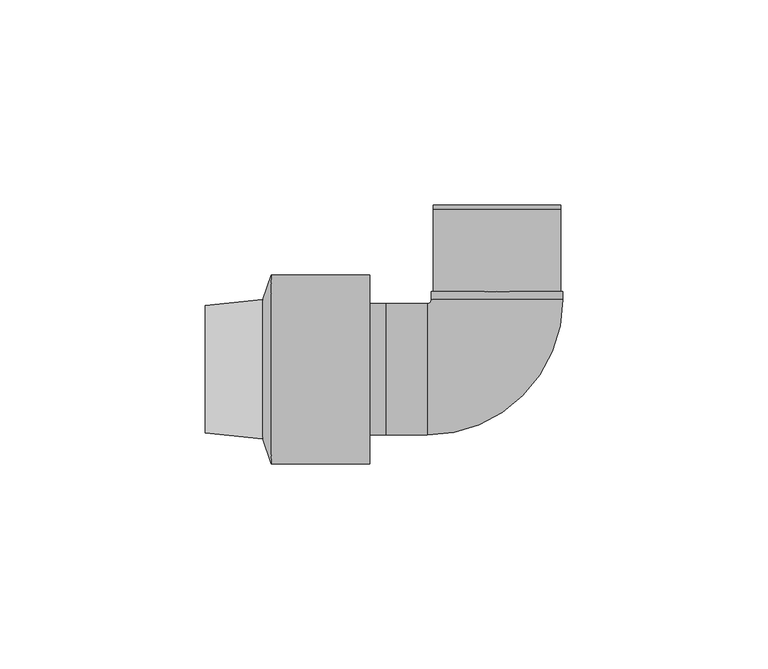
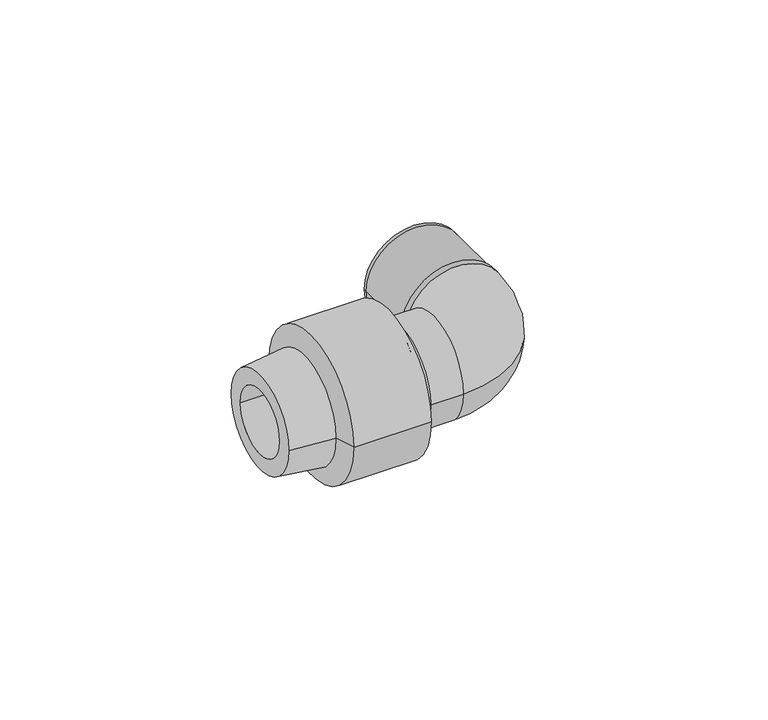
"""IFC4 building model written with IfcOpenShell, lengths in millimetres: pipe fitting geometry, Pipelife - PE - Kolano 90 proste z gwintem wewnętrznym : 20 x 1/2''."""

from ifc_helpers import new_model, si_unit, point, frame, origin, place, context, project, spatial, polyline, circle_curve, ellipse_curve, trimmed, source, transform, mapped, element, save
from ifc_brep_helpers import plane_surface, cylinder_surface, revolved_surface, advanced_brep


def pipe_fitting_b77e945e(model_context):
    return source(origin(), model_context, "Body", "AdvancedBrep", [
        advanced_brep(
        [(-17.0, -10.5, 0.0), (-31.0, -10.5, 0.0), (-31.0, 10.5, 0.0), (-17.0, 10.5, 0.0), (-27.0, -16.0, 0.0), (-17.0, -16.0, 0.0), (-17.0, 16.0, 0.0), (-27.0, 16.0, 0.0), (-31.0, -16.0, 0.0), (-31.0, 16.0, 0.0), (-15.5, 40.0, 0.0), (15.5, 40.0, 0.0), (9.5, 40.0, 0.0), (-9.5, 40.0, 0.0), (-15.5, 39.0, 0.0), (15.5, 39.0, 0.0), (-15.5, 19.0, 0.0), (15.5, 19.0, 0.0), (-9.5, 24.0, 0.0), (9.5, 24.0, 0.0), (-16.0, 17.0, 0.0), (16.0, 17.0, 0.0), (-16.0, 19.0, 0.0), (16.0, 19.0, 0.0)],
        [
            (0, 1),
            (1, 2, circle_curve(frame((-31.0, 0.0, 0.0), z_axis=(-1.0, 0.0, 0.0), x_axis=(0.0, 1.0, 0.0)), 10.5)),
            (2, 3),
            (3, 0, circle_curve(frame((-17.0, 0.0, 0.0), z_axis=(1.0, 0.0, 0.0), x_axis=(0.0, 1.0, 0.0)), 10.5)),
            (0, 3, circle_curve(frame((-17.0, 0.0, 0.0), z_axis=(1.0, 0.0, 0.0), x_axis=(0.0, 1.0, 0.0)), 10.5)),
            (2, 1, circle_curve(frame((-31.0, 0.0, 0.0), z_axis=(-1.0, 0.0, 0.0), x_axis=(0.0, 1.0, 0.0)), 10.5)),
            (4, 5),
            (5, 6, circle_curve(frame((-17.0, 0.0, 0.0), z_axis=(-1.0, 0.0, 0.0), x_axis=(0.0, 1.0, 0.0)), 16.0)),
            (6, 7),
            (7, 4, circle_curve(frame((-27.0, 0.0, 0.0), z_axis=(1.0, 0.0, 0.0), x_axis=(0.0, 1.0, 0.0)), 16.0)),
            (4, 7, circle_curve(frame((-27.0, 0.0, 0.0), z_axis=(1.0, 0.0, 0.0), x_axis=(0.0, 1.0, 0.0)), 16.0)),
            (6, 5, circle_curve(frame((-17.0, 0.0, 0.0), z_axis=(-1.0, 0.0, 0.0), x_axis=(0.0, 1.0, 0.0)), 16.0)),
            (8, 9, circle_curve(frame((-31.0, 0.0, 0.0), z_axis=(-1.0, 0.0, 0.0), x_axis=(0.0, 1.0, 0.0)), 16.0)),
            (9, 8, circle_curve(frame((-31.0, 0.0, 0.0), z_axis=(-1.0, 0.0, 0.0), x_axis=(0.0, 1.0, 0.0)), 16.0)),
            (8, 4),
            (7, 9),
            (10, 11, circle_curve(frame((0.0, 40.0, 0.0), z_axis=(0.0, 1.0, 0.0), x_axis=(1.0, 0.0, 0.0)), 15.5)),
            (11, 10, circle_curve(frame((0.0, 40.0, 0.0), z_axis=(0.0, 1.0, 0.0), x_axis=(1.0, 0.0, 0.0)), 15.5)),
            (12, 13, circle_curve(frame((0.0, 40.0, 0.0), z_axis=(0.0, -1.0, 0.0), x_axis=(1.0, 0.0, 0.0)), 9.5)),
            (13, 12, circle_curve(frame((0.0, 40.0, 0.0), z_axis=(0.0, -1.0, 0.0), x_axis=(1.0, 0.0, 0.0)), 9.5)),
            (10, 14),
            (14, 15, circle_curve(frame((0.0, 39.0, 0.0), z_axis=(0.0, 1.0, 0.0), x_axis=(1.0, 0.0, 0.0)), 15.5)),
            (15, 11),
            (15, 14, circle_curve(frame((0.0, 39.0, 0.0), z_axis=(0.0, 1.0, 0.0), x_axis=(1.0, 0.0, 0.0)), 15.5)),
            (14, 16),
            (16, 17, circle_curve(frame((0.0, 19.0, 0.0), z_axis=(0.0, 1.0, 0.0), x_axis=(1.0, 0.0, 0.0)), 15.5)),
            (17, 15),
            (17, 16, circle_curve(frame((0.0, 19.0, 0.0), z_axis=(0.0, 1.0, 0.0), x_axis=(1.0, 0.0, 0.0)), 15.5)),
            (18, 19, circle_curve(frame((0.0, 24.0, 0.0), z_axis=(0.0, 1.0, 0.0), x_axis=(1.0, 0.0, 0.0)), 9.5)),
            (19, 18, circle_curve(frame((0.0, 24.0, 0.0), z_axis=(0.0, 1.0, 0.0), x_axis=(1.0, 0.0, 0.0)), 9.5)),
            (18, 13),
            (12, 19),
            (20, 6, circle_curve(frame((-17.0, 17.0, 0.0), z_axis=(0.0, 0.0, -1.0), x_axis=(0.0, -1.0000000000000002, 0.0)), 1.0)),
            (5, 21, circle_curve(frame((-17.0, 17.0, 0.0), z_axis=(0.0, 0.0, 1.0), x_axis=(0.0, -1.0000000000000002, 0.0)), 33.0)),
            (21, 20, circle_curve(frame((0.0, 17.0, 0.0), z_axis=(0.0, -1.0000000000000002, 0.0), x_axis=(-1.0000000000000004, 0.0, 0.0)), 16.0)),
            (20, 21, circle_curve(frame((0.0, 17.0, 0.0), z_axis=(0.0, -1.0000000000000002, 0.0), x_axis=(-1.0000000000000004, 0.0, 0.0)), 16.0)),
            (22, 23, circle_curve(frame((0.0, 19.0, 0.0), z_axis=(0.0, 1.0, 0.0), x_axis=(1.0, 0.0, 0.0)), 16.0)),
            (23, 22, circle_curve(frame((0.0, 19.0, 0.0), z_axis=(0.0, 1.0, 0.0), x_axis=(1.0, 0.0, 0.0)), 16.0)),
            (22, 20),
            (21, 23),
        ],
        [
            revolved_surface(polyline([(-31.0, 10.5, 0.0), (-17.0, 10.5, 0.0)]), (-71.0, 0.0, 0.0), (-1.0, 0.0, 0.0)),
            cylinder_surface(frame((-27.0, 0.0, 0.0), z_axis=(-1.0, 0.0, 0.0), x_axis=(0.0, 1.0, 0.0)), 16.0),
            plane_surface(frame((-31.0, 0.0, 0.0), z_axis=(-1.0, 0.0, 0.0), x_axis=(0.0, 0.0, 1.0))),
            cylinder_surface(frame((-31.0, 0.0, 0.0), z_axis=(-1.0, 0.0, 0.0), x_axis=(0.0, 1.0, 0.0)), 16.0),
            plane_surface(frame((0.0, 40.0, 0.0), z_axis=(0.0, 1.0, 0.0), x_axis=(0.0, 0.0, 1.0))),
            cylinder_surface(frame((0.0, 40.0, 0.0), z_axis=(0.0, 1.0, 0.0), x_axis=(1.0, 0.0, 0.0)), 15.5),
            cylinder_surface(frame((0.0, 39.0, 0.0), z_axis=(0.0, 1.0, 0.0), x_axis=(1.0, 0.0, 0.0)), 15.5),
            plane_surface(frame((0.0, 24.0, 0.0), z_axis=(0.0, 1.0, 0.0), x_axis=(0.0, 0.0, 1.0))),
            revolved_surface(polyline([(9.5, 40.0, 0.0), (9.5, 24.0, 0.0)]), (0.0, 40.0, 0.0), (0.0, 1.0, 0.0)),
            plane_surface(frame((-17.0, 0.0, 0.0), z_axis=(-1.0, 0.0, 0.0), x_axis=(0.0, 0.0, 1.0))),
            revolved_surface(trimmed(ellipse_curve(frame((-17.0, 0.0, 0.0), z_axis=(-1.0000000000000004, 0.0, 0.0), x_axis=(0.0, 1.0000000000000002, 0.0)), 16.0, 16.0), [point((-17.0, -16.0, 0.0))], [point((-17.0, 16.0, 0.0))], True, "CARTESIAN"), (-17.0, 17.0, 0.0), (0.0, 0.0, 1.0000000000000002)),
            revolved_surface(trimmed(ellipse_curve(frame((-17.0, 0.0, 0.0), z_axis=(-1.0000000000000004, 0.0, 0.0), x_axis=(0.0, 1.0000000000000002, 0.0)), 16.0, 16.0), [point((-17.0, 16.0, 0.0))], [point((-17.0, -16.0, 0.0))], True, "CARTESIAN"), (-17.0, 17.0, 0.0), (0.0, 0.0, 1.0000000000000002)),
            plane_surface(frame((0.0, 19.0, 0.0), z_axis=(0.0, 1.0, 0.0), x_axis=(0.0, 0.0, 1.0))),
            cylinder_surface(frame((0.0, 19.0, 0.0), z_axis=(0.0, 1.0, 0.0), x_axis=(1.0, 0.0, 0.0)), 16.0),
        ],
        [
            (0, [[1, 2, 3, 4]]),
            (0, [[-1, 5, -3, 6]]),
            (1, [[7, 8, 9, 10]]),
            (1, [[-7, 11, -9, 12]]),
            (2, [[13, 14], [-2, -6]]),
            (3, [[-13, 15, -10, 16]]),
            (3, [[-14, -16, -11, -15]]),
            (4, [[17, 18], [19, 20]]),
            (5, [[-17, 21, 22, 23]]),
            (5, [[-18, -23, 24, -21]]),
            (6, [[25, 26, 27, -22]]),
            (6, [[-25, -24, -27, 28]]),
            (7, [[29, 30]]),
            (8, [[-29, 31, -19, 32]]),
            (8, [[-30, -32, -20, -31]]),
            (9, [[-4, -5]]),
            (10, [[33, -8, 34, 35]]),
            (11, [[-33, 36, -34, -12]]),
            (12, [[37, 38], [-26, -28]]),
            (13, [[-37, 39, -35, 40]]),
            (13, [[-38, -40, -36, -39]]),
        ],
    ),
        advanced_brep(
        [(-31.0, -23.0, 0.0), (-31.0, 23.0, 0.0), (-31.0, -10.5, 0.0), (-31.0, 10.5, 0.0), (-55.0, 23.0, 0.0), (-55.0, -23.0, 0.0), (-71.0, -10.5, 0.0), (-71.0, 10.5, 0.0), (-57.0, -17.0, 0.0), (-57.0, 17.0, 0.0), (-71.0, 15.5, 0.0), (-71.0, -15.5, 0.0)],
        [
            (0, 1, circle_curve(frame((-31.0, 0.0, 0.0), z_axis=(1.0, 0.0, 0.0), x_axis=(0.0, 1.0, 0.0)), 23.0)),
            (1, 0, circle_curve(frame((-31.0, 0.0, 0.0), z_axis=(1.0, 0.0, 0.0), x_axis=(0.0, 1.0, 0.0)), 23.0)),
            (2, 3, circle_curve(frame((-31.0, 0.0, 0.0), z_axis=(-1.0, 0.0, 0.0), x_axis=(0.0, 1.0, 0.0)), 10.5)),
            (3, 2, circle_curve(frame((-31.0, 0.0, 0.0), z_axis=(-1.0, 0.0, 0.0), x_axis=(0.0, 1.0, 0.0)), 10.5)),
            (1, 4),
            (4, 5, circle_curve(frame((-55.0, 0.0, 0.0), z_axis=(1.0, 0.0, 0.0), x_axis=(0.0, 1.0, 0.0)), 23.0)),
            (5, 0),
            (5, 4, circle_curve(frame((-55.0, 0.0, 0.0), z_axis=(1.0, 0.0, 0.0), x_axis=(0.0, 1.0, 0.0)), 23.0)),
            (2, 6),
            (6, 7, circle_curve(frame((-71.0, 0.0, 0.0), z_axis=(-1.0, 0.0, 0.0), x_axis=(0.0, 1.0, 0.0)), 10.5)),
            (7, 3),
            (7, 6, circle_curve(frame((-71.0, 0.0, 0.0), z_axis=(-1.0, 0.0, 0.0), x_axis=(0.0, 1.0, 0.0)), 10.5)),
            (5, 8),
            (8, 9, circle_curve(frame((-57.0, 0.0, 0.0), z_axis=(1.0, 0.0, 0.0), x_axis=(0.0, 1.0, 0.0)), 17.0)),
            (9, 4),
            (9, 8, circle_curve(frame((-57.0, 0.0, 0.0), z_axis=(1.0, 0.0, 0.0), x_axis=(0.0, -1.0, 0.0)), 17.0)),
            (10, 11, circle_curve(frame((-71.0, 0.0, 0.0), z_axis=(-1.0, 0.0, 0.0), x_axis=(0.0, 1.0, 0.0)), 15.5)),
            (11, 10, circle_curve(frame((-71.0, 0.0, 0.0), z_axis=(-1.0, 0.0, 0.0), x_axis=(0.0, -1.0, 0.0)), 15.5)),
            (10, 9),
            (8, 11),
        ],
        [
            plane_surface(frame((-31.0, 0.0, 0.0), z_axis=(1.0, 0.0, 0.0), x_axis=(0.0, 0.0, 1.0))),
            cylinder_surface(frame((-55.0, 0.0, 0.0), z_axis=(-1.0, 0.0, 0.0), x_axis=(0.0, 1.0, 0.0)), 23.0),
            revolved_surface(polyline([(-71.0, 10.5, 0.0), (-31.0, 10.5, 0.0)]), (-71.0, 0.0, 0.0), (-1.0, 0.0, 0.0)),
            revolved_surface(polyline([(-57.0, -17.00000002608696, 0.0), (-55.0, -23.0, 0.0)]), (-62.6666667, 0.0, 0.0), (1.0, 0.0, 0.0)),
            plane_surface(frame((-71.0, 0.0, 0.0), z_axis=(-1.0, 0.0, 0.0), x_axis=(0.0, 0.0, -1.0))),
            revolved_surface(polyline([(-71.0, 15.500000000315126, 0.0), (-57.0, 17.0, 0.0)]), (-215.6666667, 0.0, 0.0), (1.0, 0.0, 0.0)),
            revolved_surface(polyline([(-71.0, -15.500000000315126, 0.0), (-57.0, -17.0, 0.0)]), (-215.6666667, 0.0, 0.0), (1.0, 0.0, 0.0)),
        ],
        [
            (0, [[1, 2], [3, 4]]),
            (1, [[-2, 5, 6, 7]]),
            (1, [[-1, -7, 8, -5]]),
            (2, [[9, 10, 11, -3]]),
            (2, [[-9, -4, -11, 12]]),
            (3, [[13, 14, 15, -8]]),
            (3, [[-13, -6, -15, 16]]),
            (4, [[17, 18], [-10, -12]]),
            (5, [[-17, 19, -14, 20]]),
            (6, [[-18, -20, -16, -19]]),
        ],
    ),
    ])


if __name__ == "__main__":
    model = new_model("IFC4")
    model_context = context("Model", 3, world=origin())
    ifc_project = project(units=[si_unit("LENGTHUNIT", "METRE", prefix="MILLI")], contexts=[model_context])
    site = spatial("IfcSite", under=ifc_project)
    building = spatial("IfcBuilding", under=site)
    placement = place(None, origin())
    pipe_fitting_shape = pipe_fitting_b77e945e(model_context)
    element("IfcPipeFitting", 1, ObjectType="Pipelife - PE - Kolano 90 proste z gwintem wewnętrznym : 20 x 1/2''", at=placement, inside=building, context=model_context, shape_type="MappedRepresentation", body=[
        mapped(pipe_fitting_shape, transform((0.0, 0.0, 0.0), x_axis=(1.0, 0.0, 0.0), y_axis=(0.0, 1.0, 0.0), z_axis=(0.0, 0.0, 1.0))),
    ])
    save(model, "model.ifc")
